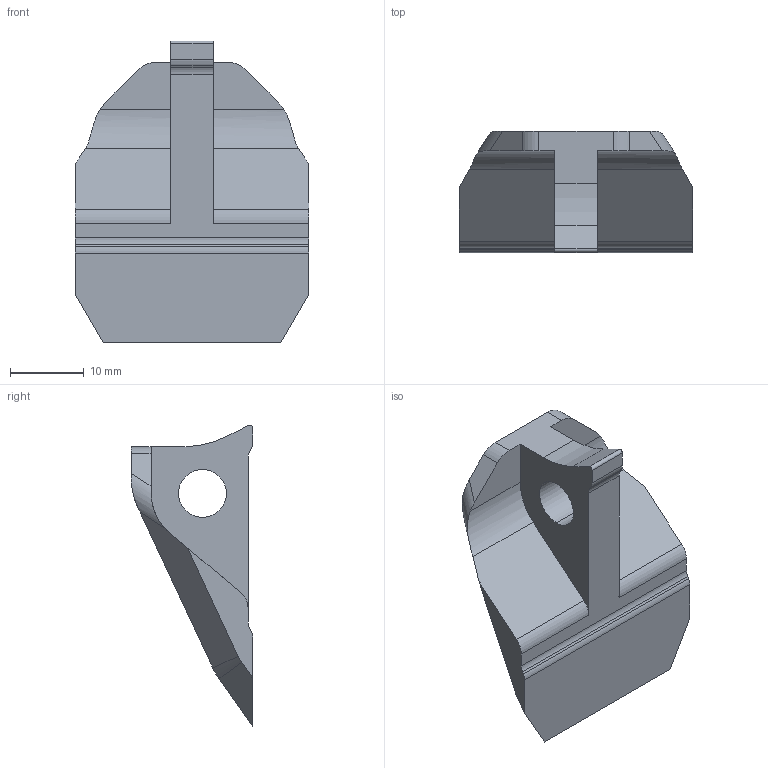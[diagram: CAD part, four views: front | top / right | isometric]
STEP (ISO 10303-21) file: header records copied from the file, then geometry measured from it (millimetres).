
FILE_DESCRIPTION (( 'STEP AP214' ), '1' );
FILE_NAME ('Hive Hoof 2.0_Deluxe.STEP', '2026-06-26T03:01:12', ( '' ), ( '' ), 'SwSTEP 2.0', 'SolidWorks 2024', '' );
FILE_SCHEMA (( 'AUTOMOTIVE_DESIGN' ));
Length unit declared in the file: inch
Products named in the file (1): Hive Hoof 2.0_Deluxe
Bounding box: 31.75 x 16.51 x 41.04 mm (x, y, z)
Volume: 5840.6 mm3; surface area: 3253.1 mm2
Topology: 1 solids, 1 shells, 44 faces, 122 edges, 80 vertices
Faces by surface type: plane 24, cylinder 18, cone 2
Entity records: 1467 total; most frequent: CARTESIAN_POINT 311, ORIENTED_EDGE 244, DIRECTION 230, EDGE_CURVE 122, VERTEX_POINT 80, LINE 80, VECTOR 80, AXIS2_PLACEMENT_3D 75
